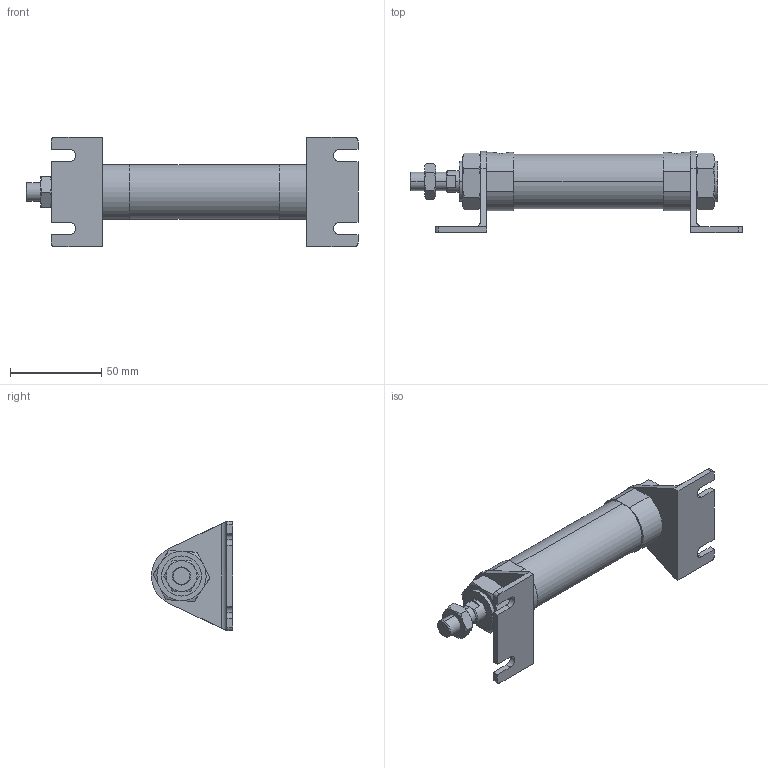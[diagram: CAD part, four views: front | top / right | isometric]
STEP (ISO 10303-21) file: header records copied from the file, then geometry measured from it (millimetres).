
FILE_DESCRIPTION (( 'STEP AP203' ), '1' );
FILE_NAME ('J#2-25-50-L.STEP', '2016-03-10T00:53:38', ( '' ), ( '' ), 'SwSTEP 2.0', 'SolidWorks 2014', '' );
FILE_SCHEMA (( 'CONFIG_CONTROL_DESIGN' ));
Length unit declared in the file: millimetre
Products named in the file (5): J#2-25-50; J#2-25-50-L; J#2-25-L
Assembly tree (6 placements, depth 2):
  J#2-25-50-L
    J#2-25-50
    (unnamed)
    (unnamed)  x2
    J#2-25-L  x2
Bounding box: 182.2 x 44.5 x 60 mm (x, y, z)
Volume: 117847.3 mm3; surface area: 34792.5 mm2
Topology: 6 solids, 6 shells, 171 faces, 402 edges, 246 vertices
Faces by surface type: plane 75, cylinder 50, torus 36, cone 10
Entity records: 4351 total; most frequent: CARTESIAN_POINT 1030, DIRECTION 588, ORIENTED_EDGE 560, EDGE_CURVE 280, AXIS2_PLACEMENT_3D 234, VERTEX_POINT 172, EDGE_LOOP 136, ADVANCED_FACE 123
